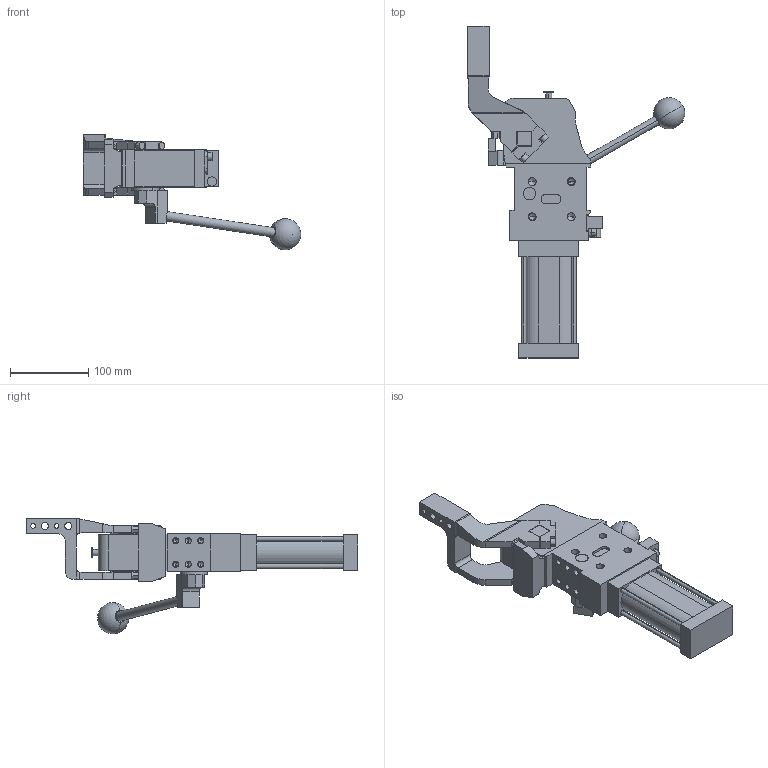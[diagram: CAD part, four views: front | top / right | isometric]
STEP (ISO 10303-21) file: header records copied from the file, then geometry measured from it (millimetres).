
FILE_DESCRIPTION (( 'STEP AP214' ), '1' );
FILE_NAME ('cplm50lbth3si1g_107.STEP', '2023-01-26T14:04:01', ( '' ), ( '' ), 'SwSTEP 2.0', 'SolidWorks 2022', '' );
FILE_SCHEMA (( 'AUTOMOTIVE_DESIGN' ));
Length unit declared in the file: millimetre
Products named in the file (5): cplm50lbth3si1g_107; blocchetto_VEP_0; meccanica_cplm_50_tassello_esterno; comando_manuale_cplm_50; leva_h3s_cpl50t
Assembly tree (4 placements, depth 2):
  cplm50lbth3si1g_107
    meccanica_cplm_50_tassello_esterno
    blocchetto_VEP_0
    leva_h3s_cpl50t
    comando_manuale_cplm_50
Bounding box: 277.96 x 424.5 x 148 mm (x, y, z)
Volume: 1515279.3 mm3; surface area: 191782 mm2
Topology: 4 solids, 4 shells, 468 faces, 1213 edges, 761 vertices
Faces by surface type: plane 247, cylinder 169, cone 50, sphere 2
Entity records: 15545 total; most frequent: CARTESIAN_POINT 2510, DIRECTION 2445, ORIENTED_EDGE 2324, EDGE_CURVE 1162, AXIS2_PLACEMENT_3D 827, LINE 791, VECTOR 791, VERTEX_POINT 758
